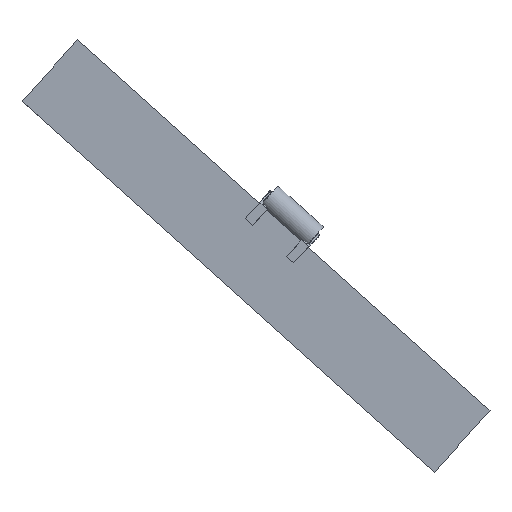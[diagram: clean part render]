
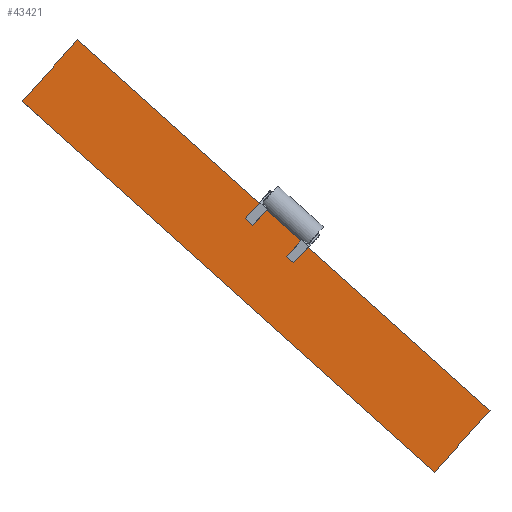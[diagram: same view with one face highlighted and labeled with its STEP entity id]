
A CAD part, top view. The second image highlights one B-rep face of the part: STEP entity #43421.
In plain terms, the highlighted planar face has unit normal (0, 0, 1).
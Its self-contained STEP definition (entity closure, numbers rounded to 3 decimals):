
#3177=FACE_OUTER_BOUND('',#5791,.T.);
#5791=EDGE_LOOP('',(#39501,#39502,#39503,#39504));
#11509=LINE('',#69077,#17235);
#11512=LINE('',#69083,#17238);
#11515=LINE('',#69089,#17241);
#11518=LINE('',#69093,#17244);
#17235=VECTOR('',#55173,10.);
#17238=VECTOR('',#55178,10.);
#17241=VECTOR('',#55183,10.);
#17244=VECTOR('',#55188,10.);
#21281=VERTEX_POINT('',#69074);
#21282=VERTEX_POINT('',#69076);
#21284=VERTEX_POINT('',#69082);
#21286=VERTEX_POINT('',#69088);
#27351=EDGE_CURVE('',#21282,#21281,#11509,.T.);
#27354=EDGE_CURVE('',#21284,#21282,#11512,.T.);
#27357=EDGE_CURVE('',#21286,#21284,#11515,.T.);
#27360=EDGE_CURVE('',#21281,#21286,#11518,.T.);
#39501=ORIENTED_EDGE('',*,*,#27360,.T.);
#39502=ORIENTED_EDGE('',*,*,#27357,.T.);
#39503=ORIENTED_EDGE('',*,*,#27354,.T.);
#39504=ORIENTED_EDGE('',*,*,#27351,.T.);
#41389=PLANE('',#45485);
#43421=ADVANCED_FACE('',(#3177),#41389,.T.);
#45485=AXIS2_PLACEMENT_3D('',#69094,#55189,#55190);
#55173=DIRECTION('',(0.,-1.,0.));
#55178=DIRECTION('',(-1.,0.,0.));
#55183=DIRECTION('',(0.,1.,0.));
#55188=DIRECTION('',(1.,0.,0.));
#55189=DIRECTION('center_axis',(0.,0.,1.));
#55190=DIRECTION('ref_axis',(1.,0.,0.));
#69074=CARTESIAN_POINT('',(-150.,-1000.,20.25));
#69076=CARTESIAN_POINT('',(-150.,1000.,20.25));
#69077=CARTESIAN_POINT('',(-150.,-1000.,20.25));
#69082=CARTESIAN_POINT('',(150.,1000.,20.25));
#69083=CARTESIAN_POINT('',(-150.,1000.,20.25));
#69088=CARTESIAN_POINT('',(150.,-1000.,20.25));
#69089=CARTESIAN_POINT('',(150.,1000.,20.25));
#69093=CARTESIAN_POINT('',(150.,-1000.,20.25));
#69094=CARTESIAN_POINT('Origin',(0.,0.,
20.25));
